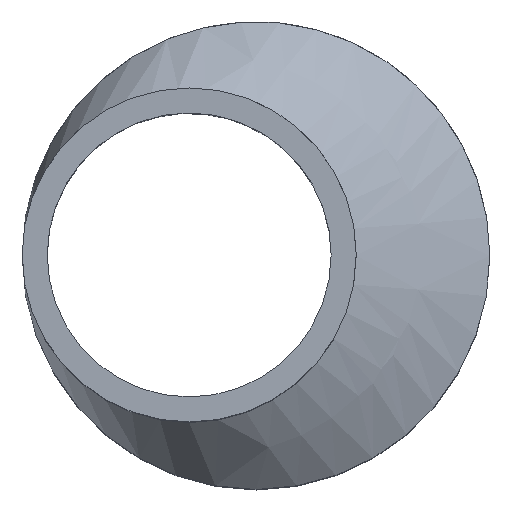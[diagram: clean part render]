
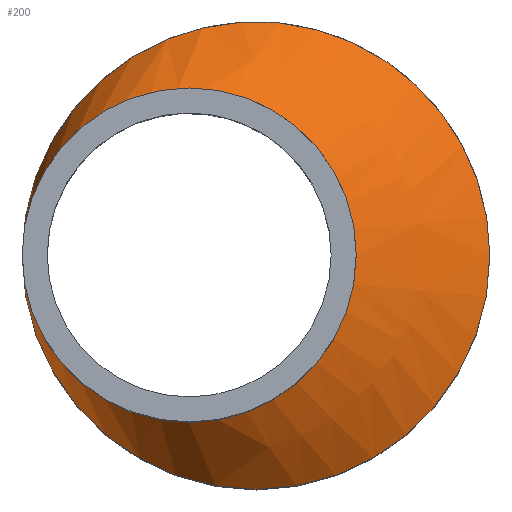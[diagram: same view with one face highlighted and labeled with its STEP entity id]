
A CAD part, top view. The second image highlights one B-rep face of the part: STEP entity #200.
In plain terms, the highlighted free-form (B-spline) face has degree [1, 2] with [2, 9] control points.
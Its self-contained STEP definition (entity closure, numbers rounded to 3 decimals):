
#15=B_SPLINE_CURVE_WITH_KNOTS($,1,(#381,#382),.UNSPECIFIED.,.F.,.F.,(2,
2),(-0.462,0.),.UNSPECIFIED.);
#17=(
BOUNDED_SURFACE()
B_SPLINE_SURFACE(1,2,((#359,#360,#361,#362,#363,#364,#365,#366,#367),(#368,
#369,#370,#371,#372,#373,#374,#375,#376)),.UNSPECIFIED.,.F.,.T.,.F.)
B_SPLINE_SURFACE_WITH_KNOTS((2,2),(3,2,2,2,3),(-1.,0.795),(-3.142,
-1.571,0.,1.571,3.142),.UNSPECIFIED.)
GEOMETRIC_REPRESENTATION_ITEM()
RATIONAL_B_SPLINE_SURFACE(((1.,0.707,1.,0.707,1.,
0.707,1.,0.707,1.),(1.,0.707,1.,0.707,
1.,0.707,1.,0.707,1.)))
REPRESENTATION_ITEM($)
SURFACE()
);
#47=FACE_OUTER_BOUND($,#67,.T.);
#67=EDGE_LOOP($,(#157,#158,#159,#160,#161,#162));
#83=CIRCLE($,#221,28.);
#84=CIRCLE($,#222,28.);
#91=CIRCLE($,#231,20.);
#92=CIRCLE($,#232,20.);
#101=VERTEX_POINT($,#321);
#102=VERTEX_POINT($,#322);
#109=VERTEX_POINT($,#377);
#110=VERTEX_POINT($,#378);
#119=EDGE_CURVE($,#101,#102,#83,.T.);
#120=EDGE_CURVE($,#102,#101,#84,.T.);
#128=EDGE_CURVE($,#109,#110,#91,.T.);
#129=EDGE_CURVE($,#110,#109,#92,.T.);
#130=EDGE_CURVE($,#110,#102,#15,.T.);
#157=ORIENTED_EDGE($,*,*,#128,.F.);
#158=ORIENTED_EDGE($,*,*,#129,.F.);
#159=ORIENTED_EDGE($,*,*,#130,.T.);
#160=ORIENTED_EDGE($,*,*,#119,.F.);
#161=ORIENTED_EDGE($,*,*,#120,.F.);
#162=ORIENTED_EDGE($,*,*,#130,.F.);
#200=ADVANCED_FACE($,(#47),#17,.F.);
#221=AXIS2_PLACEMENT_3D($,#323,#266,#267);
#222=AXIS2_PLACEMENT_3D($,#324,#268,#269);
#231=AXIS2_PLACEMENT_3D($,#379,#286,#287);
#232=AXIS2_PLACEMENT_3D($,#380,#288,#289);
#266=DIRECTION('center_axis',(0.,0.,-1.));
#267=DIRECTION('ref_axis',(-1.,0.,0.));
#268=DIRECTION('center_axis',(0.,0.,-1.));
#269=DIRECTION('ref_axis',(-1.,0.,0.));
#286=DIRECTION('center_axis',(0.,0.,1.));
#287=DIRECTION('ref_axis',(-1.,0.,0.));
#288=DIRECTION('center_axis',(0.,0.,1.));
#289=DIRECTION('ref_axis',(-1.,0.,0.));
#321=CARTESIAN_POINT('',(28.,0.,37.));
#322=CARTESIAN_POINT('',(-10.695,25.877,37.));
#323=CARTESIAN_POINT('Origin',(0.,0.,37.));
#324=CARTESIAN_POINT('Origin',(0.,0.,37.));
#359=CARTESIAN_POINT('Ctrl Pts',(0.,41.87,
19.695));
#360=CARTESIAN_POINT('Ctrl Pts',(-28.,41.87,2.39));
#361=CARTESIAN_POINT('Ctrl Pts',(-28.,0.,2.39));
#362=CARTESIAN_POINT('Ctrl Pts',(-28.,-41.87,2.39));
#363=CARTESIAN_POINT('Ctrl Pts',(0.,-41.87,
19.695));
#364=CARTESIAN_POINT('Ctrl Pts',(28.,-41.87,37.));
#365=CARTESIAN_POINT('Ctrl Pts',(28.,0.,37.));
#366=CARTESIAN_POINT('Ctrl Pts',(28.,41.87,37.));
#367=CARTESIAN_POINT('Ctrl Pts',(0.,41.87,
19.695));
#368=CARTESIAN_POINT('Ctrl Pts',(-19.196,13.165,50.755));
#369=CARTESIAN_POINT('Ctrl Pts',(-28.,13.165,45.313));
#370=CARTESIAN_POINT('Ctrl Pts',(-28.,0.,45.313));
#371=CARTESIAN_POINT('Ctrl Pts',(-28.,-13.165,45.313));
#372=CARTESIAN_POINT('Ctrl Pts',(-19.196,-13.165,50.755));
#373=CARTESIAN_POINT('Ctrl Pts',(-10.392,-13.165,56.196));
#374=CARTESIAN_POINT('Ctrl Pts',(-10.392,0.,56.196));
#375=CARTESIAN_POINT('Ctrl Pts',(-10.392,13.165,56.196));
#376=CARTESIAN_POINT('Ctrl Pts',(-19.196,13.165,50.755));
#377=CARTESIAN_POINT('',(12.,0.,45.));
#378=CARTESIAN_POINT('',(-15.639,18.484,45.));
#379=CARTESIAN_POINT('Origin',(-8.,0.,45.));
#380=CARTESIAN_POINT('Origin',(-8.,0.,45.));
#381=CARTESIAN_POINT('Ctrl Pts',(-15.639,18.484,45.));
#382=CARTESIAN_POINT('Ctrl Pts',(-10.695,25.877,37.));
